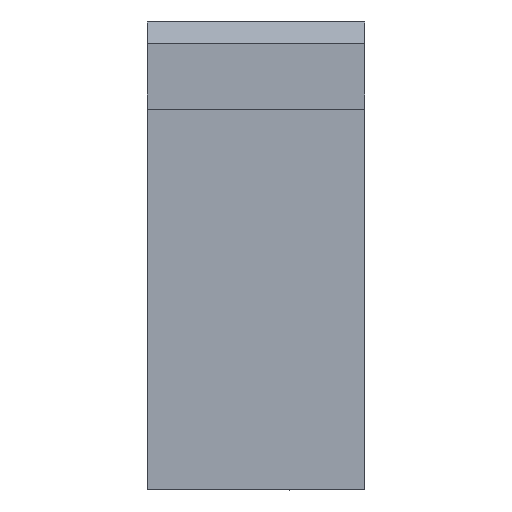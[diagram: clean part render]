
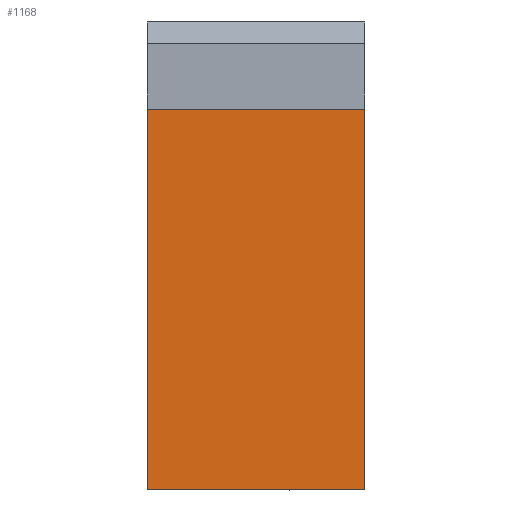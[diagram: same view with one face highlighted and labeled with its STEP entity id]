
A CAD part, front view. The second image highlights one B-rep face of the part: STEP entity #1168.
In plain terms, the highlighted planar face has unit normal (0, -1, 0).
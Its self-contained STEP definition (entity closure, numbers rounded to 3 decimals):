
#232=CARTESIAN_POINT('Vertex',(-10.,-30.,-25.)) ;
#235=CARTESIAN_POINT('Line Origine',(-10.,-30.,-7.5)) ;
#239=CARTESIAN_POINT('Vertex',(-10.,-30.,10.)) ;
#1068=CARTESIAN_POINT('Line Origine',(0.,-30.,-25.)) ;
#1072=CARTESIAN_POINT('Vertex',(10.,-30.,-25.)) ;
#1145=CARTESIAN_POINT('Axis2P3D Location',(0.,-30.,-25.)) ;
#1150=CARTESIAN_POINT('Line Origine',(0.,-30.,10.)) ;
#1154=CARTESIAN_POINT('Vertex',(10.,-30.,10.)) ;
#1157=CARTESIAN_POINT('Line Origine',(10.,-30.,-7.5)) ;
#236=DIRECTION('Vector Direction',(0.,0.,1.)) ;
#1069=DIRECTION('Vector Direction',(1.,0.,0.)) ;
#1146=DIRECTION('Axis2P3D Direction',(0.,1.,0.)) ;
#1147=DIRECTION('Axis2P3D XDirection',(0.,0.,1.)) ;
#1151=DIRECTION('Vector Direction',(1.,0.,0.)) ;
#1158=DIRECTION('Vector Direction',(0.,0.,1.)) ;
#1148=AXIS2_PLACEMENT_3D('Plane Axis2P3D',#1145,#1146,#1147) ;
#1163=ORIENTED_EDGE('',*,*,#1156,.F.) ;
#1164=ORIENTED_EDGE('',*,*,#241,.T.) ;
#1165=ORIENTED_EDGE('',*,*,#1074,.T.) ;
#1166=ORIENTED_EDGE('',*,*,#1161,.F.) ;
#237=VECTOR('Line Direction',#236,1.) ;
#1070=VECTOR('Line Direction',#1069,1.) ;
#1152=VECTOR('Line Direction',#1151,1.) ;
#1159=VECTOR('Line Direction',#1158,1.) ;
#1168=ADVANCED_FACE('BF12(H)',(#1167),#1149,.F.) ;
#241=EDGE_CURVE('',#240,#233,#238,.F.) ;
#1074=EDGE_CURVE('',#233,#1073,#1071,.T.) ;
#1156=EDGE_CURVE('',#240,#1155,#1153,.T.) ;
#1161=EDGE_CURVE('',#1155,#1073,#1160,.F.) ;
#1162=EDGE_LOOP('',(#1163,#1164,#1165,#1166)) ;
#1167=FACE_OUTER_BOUND('',#1162,.T.) ;
#238=LINE('Line',#235,#237) ;
#1071=LINE('Line',#1068,#1070) ;
#1153=LINE('Line',#1150,#1152) ;
#1160=LINE('Line',#1157,#1159) ;
#1149=PLANE('Plane',#1148) ;
#233=VERTEX_POINT('',#232) ;
#240=VERTEX_POINT('',#239) ;
#1073=VERTEX_POINT('',#1072) ;
#1155=VERTEX_POINT('',#1154) ;
